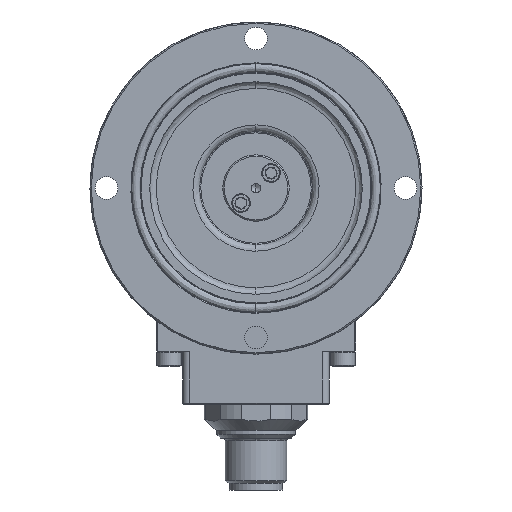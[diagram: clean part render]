
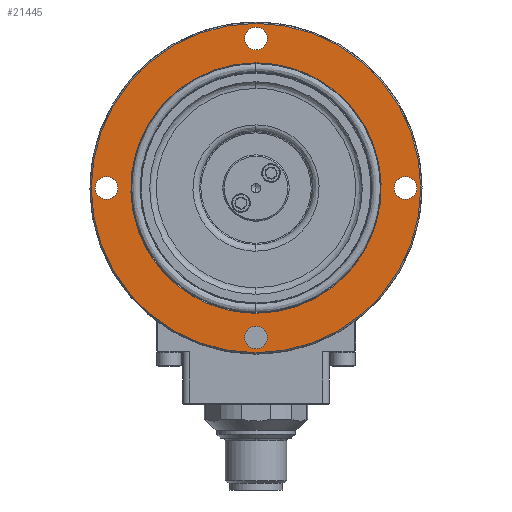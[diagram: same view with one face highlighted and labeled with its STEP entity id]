
A CAD part, front view. The second image highlights one B-rep face of the part: STEP entity #21445.
In plain terms, the highlighted planar face has unit normal (0, -1, 0).
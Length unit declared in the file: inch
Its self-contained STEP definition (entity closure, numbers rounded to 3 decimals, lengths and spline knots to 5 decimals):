
#276 = CIRCLE ( 'NONE', #33994, 0.08475 ) ;
#356 = VERTEX_POINT ( 'NONE', #9639 ) ;
#564 = FACE_OUTER_BOUND ( 'NONE', #49841, .T. ) ;
#1225 = DIRECTION ( 'NONE',  ( 0., 0., 1. ) ) ;
#1318 = DIRECTION ( 'NONE',  ( 0., 0., -1. ) ) ;
#1861 = FACE_BOUND ( 'NONE', #40569, .T. ) ;
#1902 = DIRECTION ( 'NONE',  ( 0., 0., -1. ) ) ;
#2246 = DIRECTION ( 'NONE',  ( 0., 1., 0. ) ) ;
#2924 = ORIENTED_EDGE ( 'NONE', *, *, #14703, .F. ) ;
#3180 = CARTESIAN_POINT ( 'NONE',  ( 1.125, -0.14598, -0.08475 ) ) ;
#3750 = CARTESIAN_POINT ( 'NONE',  ( -1.884, -0.14598, 0.942 ) ) ;
#3964 = EDGE_CURVE ( 'NONE', #52070, #26049, #6030, .T. ) ;
#5143 = CIRCLE ( 'NONE', #55800, 0.08475 ) ;
#6030 = CIRCLE ( 'NONE', #42926, 0.08475 ) ;
#6124 = CARTESIAN_POINT ( 'NONE',  ( 0., -0.14598, 0. ) ) ;
#6306 = ORIENTED_EDGE ( 'NONE', *, *, #9707, .T. ) ;
#6371 = ORIENTED_EDGE ( 'NONE', *, *, #22337, .T. ) ;
#6546 = DIRECTION ( 'NONE',  ( 0., 1., 0. ) ) ;
#6786 = PLANE ( 'NONE',  #60994 ) ;
#7200 = CARTESIAN_POINT ( 'NONE',  ( 0., -0.14598, 1.125 ) ) ;
#7679 = CARTESIAN_POINT ( 'NONE',  ( 0., -0.14598, -0.942 ) ) ;
#8405 = CARTESIAN_POINT ( 'NONE',  ( 0., -0.14598, -0.942 ) ) ;
#8461 = VERTEX_POINT ( 'NONE', #45851 ) ;
#8611 = EDGE_LOOP ( 'NONE', ( #46172, #2924 ) ) ;
#9639 = CARTESIAN_POINT ( 'NONE',  ( 0., -0.14598, -0.942 ) ) ;
#9663 = EDGE_LOOP ( 'NONE', ( #6306, #35102 ) ) ;
#9707 = EDGE_CURVE ( 'NONE', #11416, #22066, #37995, .T. ) ;
#9823 = AXIS2_PLACEMENT_3D ( 'NONE', #32618, #2246, #42533 ) ;
#10008 = DIRECTION ( 'NONE',  ( 0., 1., 0. ) ) ;
#10018 = CARTESIAN_POINT ( 'NONE',  ( 0., -0.14598, 1.20975 ) ) ;
#10824 = ORIENTED_EDGE ( 'NONE', *, *, #3964, .T. ) ;
#10864 = DIRECTION ( 'NONE',  ( 0., 0., -1. ) ) ;
#11416 = VERTEX_POINT ( 'NONE', #3180 ) ;
#11561 = ORIENTED_EDGE ( 'NONE', *, *, #35976, .F. ) ;
#11720 = DIRECTION ( 'NONE',  ( 0., 1., 0. ) ) ;
#12487 = CIRCLE ( 'NONE', #14578, 0.08475 ) ;
#13374 = VERTEX_POINT ( 'NONE', #10018 ) ;
#13856 = CARTESIAN_POINT ( 'NONE',  ( 0., -0.14598, 0.942 ) ) ;
#14578 = AXIS2_PLACEMENT_3D ( 'NONE', #36301, #31345, #1318 ) ;
#14703 = EDGE_CURVE ( 'NONE', #50056, #356, #33565, .T. ) ;
#16791 = DIRECTION ( 'NONE',  ( 0., 0., -1. ) ) ;
#17965 = AXIS2_PLACEMENT_3D ( 'NONE', #37554, #6546, #16791 ) ;
#18434 = VERTEX_POINT ( 'NONE', #37966 ) ;
#18839 = CARTESIAN_POINT ( 'NONE',  ( 0., -0.14598, -1.125 ) ) ;
#19154 = CARTESIAN_POINT ( 'NONE',  ( 1.125, -0.14598, 0.08475 ) ) ;
#19284 =( BOUNDED_CURVE ( )  B_SPLINE_CURVE ( 3, ( #7679, #42691, #53592, #33426 ),
 .UNSPECIFIED., .F., .T. ) 
 B_SPLINE_CURVE_WITH_KNOTS ( ( 4, 4 ),
 ( 0., 1. ),
 .UNSPECIFIED. ) 
 CURVE ( )  GEOMETRIC_REPRESENTATION_ITEM ( )  RATIONAL_B_SPLINE_CURVE ( ( 1., 0.333, 0.333, 1. ) ) 
 REPRESENTATION_ITEM ( '' )  );
#19473 = AXIS2_PLACEMENT_3D ( 'NONE', #18839, #33690, #43282 ) ;
#20028 = EDGE_LOOP ( 'NONE', ( #53001, #22014 ) ) ;
#20923 = DIRECTION ( 'NONE',  ( 0., 0., -1. ) ) ;
#21445 = ADVANCED_FACE ( 'NONE', ( #46135, #62255, #1861, #22026, #25643, #564 ), #6786, .F. ) ;
#21952 = CARTESIAN_POINT ( 'NONE',  ( -1.125, -0.14598, 0. ) ) ;
#22014 = ORIENTED_EDGE ( 'NONE', *, *, #35306, .T. ) ;
#22026 = FACE_BOUND ( 'NONE', #20028, .T. ) ;
#22066 = VERTEX_POINT ( 'NONE', #19154 ) ;
#22337 = EDGE_CURVE ( 'NONE', #26049, #52070, #5143, .T. ) ;
#25344 = DIRECTION ( 'NONE',  ( 0., 1., 0. ) ) ;
#25643 = FACE_BOUND ( 'NONE', #9663, .T. ) ;
#25788 = CIRCLE ( 'NONE', #19473, 0.08475 ) ;
#26049 = VERTEX_POINT ( 'NONE', #54708 ) ;
#26598 = DIRECTION ( 'NONE',  ( 0., 0., -1. ) ) ;
#28527 = CARTESIAN_POINT ( 'NONE',  ( -1.884, -0.14598, -0.942 ) ) ;
#31245 = DIRECTION ( 'NONE',  ( 0., 1., 0. ) ) ;
#31345 = DIRECTION ( 'NONE',  ( 0., 1., 0. ) ) ;
#32618 = CARTESIAN_POINT ( 'NONE',  ( 0., -0.14598, 0. ) ) ;
#33312 = CARTESIAN_POINT ( 'NONE',  ( -1.23975, -0.14598, 0. ) ) ;
#33426 = CARTESIAN_POINT ( 'NONE',  ( 0., -0.14598, 0.942 ) ) ;
#33483 = CARTESIAN_POINT ( 'NONE',  ( 0., -0.14598, 0.942 ) ) ;
#33565 =( BOUNDED_CURVE ( )  B_SPLINE_CURVE ( 3, ( #33483, #3750, #28527, #8405 ),
 .UNSPECIFIED., .F., .T. ) 
 B_SPLINE_CURVE_WITH_KNOTS ( ( 4, 4 ),
 ( 0., 1. ),
 .UNSPECIFIED. ) 
 CURVE ( )  GEOMETRIC_REPRESENTATION_ITEM ( )  RATIONAL_B_SPLINE_CURVE ( ( 1., 0.333, 0.333, 1. ) ) 
 REPRESENTATION_ITEM ( '' )  );
#33690 = DIRECTION ( 'NONE',  ( 0., 1., 0. ) ) ;
#33994 = AXIS2_PLACEMENT_3D ( 'NONE', #7200, #62322, #10864 ) ;
#35002 = CIRCLE ( 'NONE', #43424, 0.08475 ) ;
#35102 = ORIENTED_EDGE ( 'NONE', *, *, #43532, .T. ) ;
#35225 = AXIS2_PLACEMENT_3D ( 'NONE', #41380, #10008, #20923 ) ;
#35306 = EDGE_CURVE ( 'NONE', #18434, #54089, #35002, .T. ) ;
#35678 = ORIENTED_EDGE ( 'NONE', *, *, #47033, .F. ) ;
#35976 = EDGE_CURVE ( 'NONE', #47779, #57264, #62491, .T. ) ;
#36301 = CARTESIAN_POINT ( 'NONE',  ( 1.125, -0.14598, 0. ) ) ;
#36308 = ORIENTED_EDGE ( 'NONE', *, *, #50303, .T. ) ;
#37195 = EDGE_CURVE ( 'NONE', #54089, #18434, #25788, .T. ) ;
#37554 = CARTESIAN_POINT ( 'NONE',  ( 1.125, -0.14598, 0. ) ) ;
#37966 = CARTESIAN_POINT ( 'NONE',  ( 0., -0.14598, -1.04025 ) ) ;
#37995 = CIRCLE ( 'NONE', #17965, 0.08475 ) ;
#40569 = EDGE_LOOP ( 'NONE', ( #6371, #10824 ) ) ;
#40719 = CARTESIAN_POINT ( 'NONE',  ( 0., -0.14598, -1.20975 ) ) ;
#40973 = CARTESIAN_POINT ( 'NONE',  ( 1.23975, -0.14598, 0. ) ) ;
#41256 = EDGE_CURVE ( 'NONE', #356, #50056, #19284, .T. ) ;
#41380 = CARTESIAN_POINT ( 'NONE',  ( 0., -0.14598, 1.125 ) ) ;
#42149 = DIRECTION ( 'NONE',  ( 0., 1., 0. ) ) ;
#42533 = DIRECTION ( 'NONE',  ( -1., 0., 0. ) ) ;
#42691 = CARTESIAN_POINT ( 'NONE',  ( 1.884, -0.14598, -0.942 ) ) ;
#42926 = AXIS2_PLACEMENT_3D ( 'NONE', #47139, #51785, #1902 ) ;
#43282 = DIRECTION ( 'NONE',  ( 0., 0., -1. ) ) ;
#43424 = AXIS2_PLACEMENT_3D ( 'NONE', #51401, #42149, #26598 ) ;
#43532 = EDGE_CURVE ( 'NONE', #22066, #11416, #12487, .T. ) ;
#45851 = CARTESIAN_POINT ( 'NONE',  ( 0., -0.14598, 1.04025 ) ) ;
#46135 = FACE_BOUND ( 'NONE', #8611, .T. ) ;
#46172 = ORIENTED_EDGE ( 'NONE', *, *, #41256, .F. ) ;
#47033 = EDGE_CURVE ( 'NONE', #57264, #47779, #64537, .T. ) ;
#47139 = CARTESIAN_POINT ( 'NONE',  ( -1.125, -0.14598, 0. ) ) ;
#47779 = VERTEX_POINT ( 'NONE', #33312 ) ;
#49841 = EDGE_LOOP ( 'NONE', ( #11561, #35678 ) ) ;
#49885 = EDGE_LOOP ( 'NONE', ( #59001, #36308 ) ) ;
#50056 = VERTEX_POINT ( 'NONE', #13856 ) ;
#50303 = EDGE_CURVE ( 'NONE', #13374, #8461, #276, .T. ) ;
#51040 = DIRECTION ( 'NONE',  ( -1., 0., 0. ) ) ;
#51401 = CARTESIAN_POINT ( 'NONE',  ( 0., -0.14598, -1.125 ) ) ;
#51785 = DIRECTION ( 'NONE',  ( 0., 1., 0. ) ) ;
#52070 = VERTEX_POINT ( 'NONE', #54749 ) ;
#53001 = ORIENTED_EDGE ( 'NONE', *, *, #37195, .T. ) ;
#53592 = CARTESIAN_POINT ( 'NONE',  ( 1.884, -0.14598, 0.942 ) ) ;
#54089 = VERTEX_POINT ( 'NONE', #40719 ) ;
#54104 = EDGE_CURVE ( 'NONE', #8461, #13374, #63649, .T. ) ;
#54708 = CARTESIAN_POINT ( 'NONE',  ( -1.125, -0.14598, -0.08475 ) ) ;
#54749 = CARTESIAN_POINT ( 'NONE',  ( -1.125, -0.14598, 0.08475 ) ) ;
#55800 = AXIS2_PLACEMENT_3D ( 'NONE', #21952, #25344, #60322 ) ;
#56035 = CARTESIAN_POINT ( 'NONE',  ( 0., -0.14598, 0. ) ) ;
#57264 = VERTEX_POINT ( 'NONE', #40973 ) ;
#59001 = ORIENTED_EDGE ( 'NONE', *, *, #54104, .T. ) ;
#60322 = DIRECTION ( 'NONE',  ( 0., 0., -1. ) ) ;
#60994 = AXIS2_PLACEMENT_3D ( 'NONE', #56035, #31245, #1225 ) ;
#61407 = AXIS2_PLACEMENT_3D ( 'NONE', #6124, #11720, #51040 ) ;
#62255 = FACE_BOUND ( 'NONE', #49885, .T. ) ;
#62322 = DIRECTION ( 'NONE',  ( 0., 1., 0. ) ) ;
#62491 = CIRCLE ( 'NONE', #9823, 1.23975 ) ;
#63649 = CIRCLE ( 'NONE', #35225, 0.08475 ) ;
#64537 = CIRCLE ( 'NONE', #61407, 1.23975 ) ;
